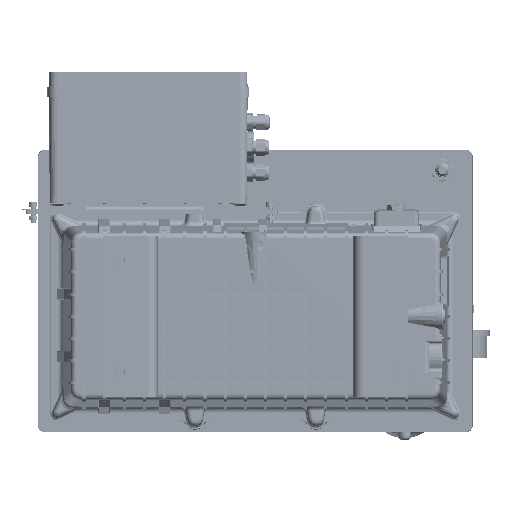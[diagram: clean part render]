
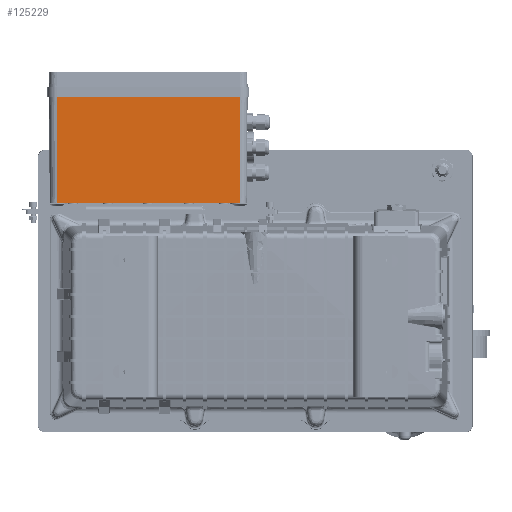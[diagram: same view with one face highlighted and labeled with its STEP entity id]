
A CAD part, front view. The second image highlights one B-rep face of the part: STEP entity #125229.
In plain terms, the highlighted planar face has unit normal (0, -1, -0.007).
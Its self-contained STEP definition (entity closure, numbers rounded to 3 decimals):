
#4122=LINE('',#170930,#13665);
#4162=LINE('',#171062,#13705);
#4201=LINE('',#171218,#13744);
#12998=LINE('',#234756,#22541);
#12999=LINE('',#234759,#22542);
#13000=LINE('',#234760,#22543);
#13665=VECTOR('',#138015,5.923);
#13705=VECTOR('',#138145,169.554);
#13744=VECTOR('',#138302,5.923);
#22541=VECTOR('',#167929,105.003);
#22542=VECTOR('',#167932,181.4);
#22543=VECTOR('',#167933,105.003);
#32683=FACE_OUTER_BOUND('',#40285,.T.);
#40285=EDGE_LOOP('',(#106477,#106478,#106479,#106480,#106481,#106482));
#45444=VERTEX_POINT('',#170928);
#45445=VERTEX_POINT('',#170929);
#45492=VERTEX_POINT('',#171060);
#45550=VERTEX_POINT('',#171216);
#55773=VERTEX_POINT('',#234754);
#55774=VERTEX_POINT('',#234758);
#56872=EDGE_CURVE('',#45444,#45445,#4122,.T.);
#56937=EDGE_CURVE('',#45492,#45444,#4162,.T.);
#57013=EDGE_CURVE('',#45550,#45492,#4201,.T.);
#72760=EDGE_CURVE('',#55773,#45445,#12998,.T.);
#72761=EDGE_CURVE('',#55773,#55774,#12999,.T.);
#72762=EDGE_CURVE('',#55774,#45550,#13000,.T.);
#106477=ORIENTED_EDGE('',*,*,#72761,.F.);
#106478=ORIENTED_EDGE('',*,*,#72760,.T.);
#106479=ORIENTED_EDGE('',*,*,#56872,.F.);
#106480=ORIENTED_EDGE('',*,*,#56937,.F.);
#106481=ORIENTED_EDGE('',*,*,#57013,.F.);
#106482=ORIENTED_EDGE('',*,*,#72762,.F.);
#111816=PLANE('',#136557);
#125229=ADVANCED_FACE('',(#32683),#111816,.T.);
#136557=AXIS2_PLACEMENT_3D('',#234757,#167930,#167931);
#138015=DIRECTION('',(-1.,0.,0.));
#138145=DIRECTION('',(-1.,0.,0.));
#138302=DIRECTION('',(-1.,0.,0.));
#167929=DIRECTION('',(0.,0.007,-1.));
#167930=DIRECTION('center_axis',(0.,-1.,
-0.007));
#167931=DIRECTION('ref_axis',(-1.,0.,0.));
#167932=DIRECTION('',(1.,0.,0.));
#167933=DIRECTION('',(0.,0.007,-1.));
#170928=CARTESIAN_POINT('',(-191.027,44.335,112.504));
#170929=CARTESIAN_POINT('',(-196.95,44.335,112.504));
#170930=CARTESIAN_POINT('',(-60.9,44.335,112.504));
#171060=CARTESIAN_POINT('',(-21.473,44.335,112.504));
#171062=CARTESIAN_POINT('',(-60.9,44.335,112.504));
#171216=CARTESIAN_POINT('',(-15.55,44.335,112.504));
#171218=CARTESIAN_POINT('',(-60.9,44.335,112.504));
#234754=CARTESIAN_POINT('',(-196.95,43.602,217.504));
#234756=CARTESIAN_POINT('',(-196.95,43.602,217.504));
#234757=CARTESIAN_POINT('Origin',(-15.55,43.602,217.504));
#234758=CARTESIAN_POINT('',(-15.55,43.602,217.504));
#234759=CARTESIAN_POINT('',(-60.9,43.602,217.504));
#234760=CARTESIAN_POINT('',(-15.55,43.602,217.504));
